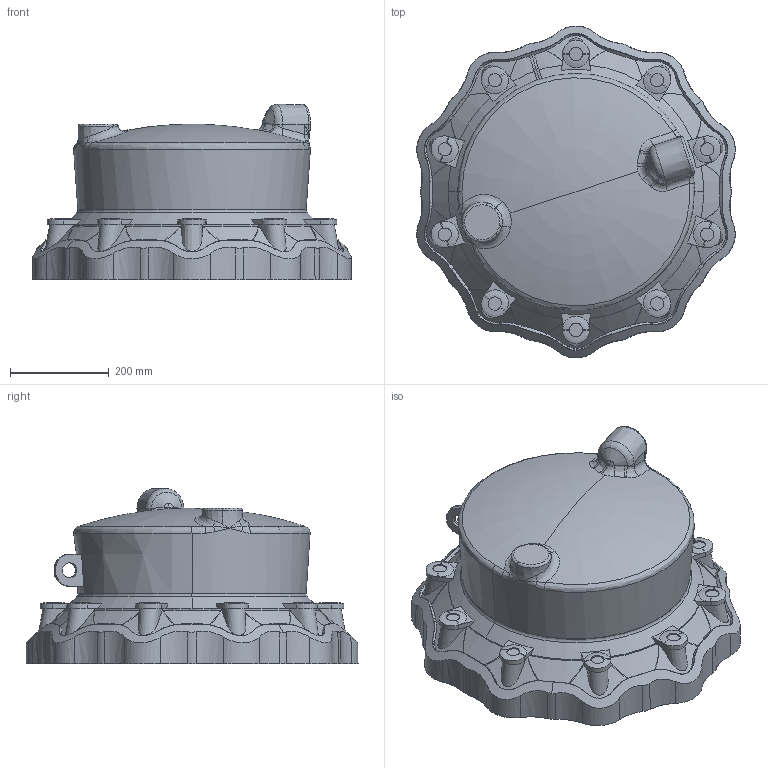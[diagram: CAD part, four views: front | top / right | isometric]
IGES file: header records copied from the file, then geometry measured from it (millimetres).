
Start section: SolidWorks IGES file using analytic representation for surfaces
Global section: file name: C:\Users\lzha\Desktop\outline drawings\634\O_634_00_DN400_iges.IGS; native system: SolidWorks 2012; preprocessor: SolidWorks 2012; author: lzha; date: 141217.111753; units: millimetre
Bounding box: 646.56 x 673.76 x 356.1 mm (x, y, z)
Volume: 58511865.8 mm3; surface area: 1203704 mm2
Topology: 1 solids, 1 shells, 517 faces, 1543 edges, 1027 vertices
Faces by surface type: bspline 244, revolution 176, plane 97
